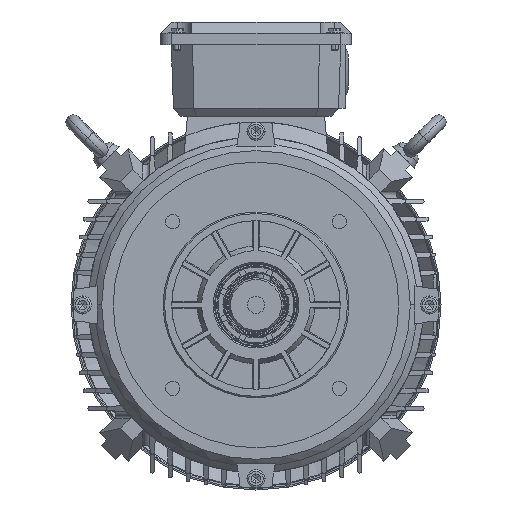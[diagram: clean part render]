
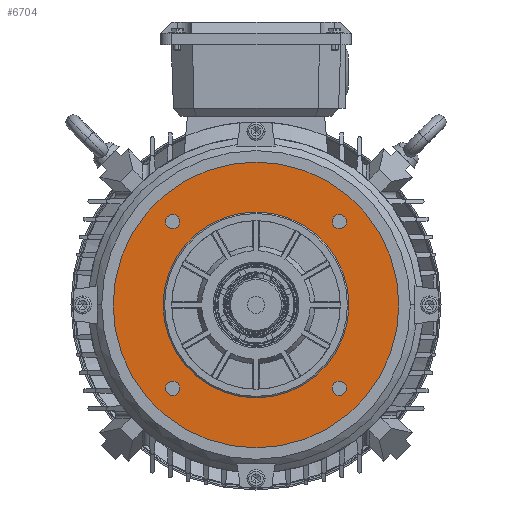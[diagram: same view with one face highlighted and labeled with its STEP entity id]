
A CAD part, left-side view. The second image highlights one B-rep face of the part: STEP entity #6704.
In plain terms, the highlighted planar face has unit normal (-1, 0, 0).
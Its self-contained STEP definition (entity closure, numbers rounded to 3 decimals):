
#147 = CARTESIAN_POINT ( 'NONE',  ( -137.49, 50.413, -60.325 ) ) ;
#236 = VERTEX_POINT ( 'NONE', #21797 ) ;
#1445 = EDGE_CURVE ( 'NONE', #17283, #132596, #109128, .T. ) ;
#2566 = CARTESIAN_POINT ( 'NONE',  ( -137.49, -67.924, -1.988 ) ) ;
#2885 = VERTEX_POINT ( 'NONE', #18143 ) ;
#4514 = CARTESIAN_POINT ( 'NONE',  ( -137.49, -2.924, -1.988 ) ) ;
#6704 = ADVANCED_FACE ( 'NONE', ( #40765, #44471, #126452, #88394, #28113, #89962 ), #137575, .F. ) ;
#8678 = CIRCLE ( 'NONE', #92239, 5. ) ;
#10390 = AXIS2_PLACEMENT_3D ( 'NONE', #132944, #133720, #71847 ) ;
#11230 = VERTEX_POINT ( 'NONE', #57525 ) ;
#14040 = CARTESIAN_POINT ( 'NONE',  ( -137.49, 55.413, 56.348 ) ) ;
#17283 = VERTEX_POINT ( 'NONE', #23902 ) ;
#18143 = CARTESIAN_POINT ( 'NONE',  ( -137.49, 60.413, 56.348 ) ) ;
#20159 = CARTESIAN_POINT ( 'NONE',  ( -137.49, -102.924, -1.988 ) ) ;
#20568 = DIRECTION ( 'NONE',  ( -1., 0., 0. ) ) ;
#21797 = CARTESIAN_POINT ( 'NONE',  ( -137.49, 62.076, -1.988 ) ) ;
#23902 = CARTESIAN_POINT ( 'NONE',  ( -137.49, -56.26, -60.325 ) ) ;
#24238 = AXIS2_PLACEMENT_3D ( 'NONE', #14040, #47351, #110024 ) ;
#28113 = FACE_BOUND ( 'NONE', #112809, .T. ) ;
#28899 = CARTESIAN_POINT ( 'NONE',  ( -137.49, -2.924, -101.988 ) ) ;
#29024 = ORIENTED_EDGE ( 'NONE', *, *, #1445, .F. ) ;
#30573 = DIRECTION ( 'NONE',  ( 0., 1., 0. ) ) ;
#31082 = DIRECTION ( 'NONE',  ( 0., 1., 0. ) ) ;
#31744 = ORIENTED_EDGE ( 'NONE', *, *, #96475, .F. ) ;
#32672 = DIRECTION ( 'NONE',  ( 0., 1., 0. ) ) ;
#34668 = DIRECTION ( 'NONE',  ( 0., 1., 0. ) ) ;
#35616 = AXIS2_PLACEMENT_3D ( 'NONE', #60702, #130550, #120219 ) ;
#40667 = CARTESIAN_POINT ( 'NONE',  ( -137.49, -61.26, 56.348 ) ) ;
#40765 = FACE_OUTER_BOUND ( 'NONE', #129961, .T. ) ;
#42439 = DIRECTION ( 'NONE',  ( -1., 0., 0. ) ) ;
#44471 = FACE_BOUND ( 'NONE', #65017, .T. ) ;
#45626 = DIRECTION ( 'NONE',  ( -1., 0., 0. ) ) ;
#45793 = VERTEX_POINT ( 'NONE', #151407 ) ;
#47196 = CARTESIAN_POINT ( 'NONE',  ( -137.49, -2.924, -1.988 ) ) ;
#47351 = DIRECTION ( 'NONE',  ( -1., 0., 0. ) ) ;
#47821 = EDGE_CURVE ( 'NONE', #2885, #87139, #67276, .T. ) ;
#49751 = CARTESIAN_POINT ( 'NONE',  ( -137.49, -66.26, -60.325 ) ) ;
#51791 = DIRECTION ( 'NONE',  ( -1., 0., 0. ) ) ;
#53263 = CARTESIAN_POINT ( 'NONE',  ( -137.49, -56.26, 56.348 ) ) ;
#54224 = ORIENTED_EDGE ( 'NONE', *, *, #125844, .F. ) ;
#57525 = CARTESIAN_POINT ( 'NONE',  ( -137.49, 97.076, -1.988 ) ) ;
#59568 = CIRCLE ( 'NONE', #69648, 100. ) ;
#59977 = EDGE_LOOP ( 'NONE', ( #68809, #107015 ) ) ;
#60702 = CARTESIAN_POINT ( 'NONE',  ( -137.49, -61.26, -60.325 ) ) ;
#64334 = VERTEX_POINT ( 'NONE', #144198 ) ;
#64847 = ORIENTED_EDGE ( 'NONE', *, *, #112127, .T. ) ;
#65017 = EDGE_LOOP ( 'NONE', ( #150684, #120318 ) ) ;
#67115 = CIRCLE ( 'NONE', #107639, 5. ) ;
#67276 = CIRCLE ( 'NONE', #24238, 5. ) ;
#67391 = CARTESIAN_POINT ( 'NONE',  ( -137.49, 55.413, -60.325 ) ) ;
#67733 = VERTEX_POINT ( 'NONE', #2566 ) ;
#68172 = DIRECTION ( 'NONE',  ( 0., 1., 0. ) ) ;
#68809 = ORIENTED_EDGE ( 'NONE', *, *, #47821, .F. ) ;
#68925 = AXIS2_PLACEMENT_3D ( 'NONE', #73514, #108432, #34668 ) ;
#69648 = AXIS2_PLACEMENT_3D ( 'NONE', #47196, #45626, #95614 ) ;
#70846 = AXIS2_PLACEMENT_3D ( 'NONE', #4514, #134058, #90135 ) ;
#70962 = EDGE_CURVE ( 'NONE', #139981, #64334, #73670, .T. ) ;
#71616 = DIRECTION ( 'NONE',  ( 0., 1., 0. ) ) ;
#71847 = DIRECTION ( 'NONE',  ( 0., 1., 0. ) ) ;
#73514 = CARTESIAN_POINT ( 'NONE',  ( -137.49, -2.924, -1.988 ) ) ;
#73670 = CIRCLE ( 'NONE', #10390, 5. ) ;
#73678 = VERTEX_POINT ( 'NONE', #20159 ) ;
#76225 = CARTESIAN_POINT ( 'NONE',  ( -137.49, 50.413, 56.348 ) ) ;
#77268 = DIRECTION ( 'NONE',  ( 1., 0., 0. ) ) ;
#79507 = DIRECTION ( 'NONE',  ( -1., 0., 0. ) ) ;
#81472 = CIRCLE ( 'NONE', #142296, 100. ) ;
#83422 = CIRCLE ( 'NONE', #70846, 65. ) ;
#87139 = VERTEX_POINT ( 'NONE', #76225 ) ;
#88394 = FACE_BOUND ( 'NONE', #152134, .T. ) ;
#89962 = FACE_BOUND ( 'NONE', #103029, .T. ) ;
#90135 = DIRECTION ( 'NONE',  ( 0., 1., 0. ) ) ;
#92239 = AXIS2_PLACEMENT_3D ( 'NONE', #100689, #156492, #71616 ) ;
#94839 = EDGE_CURVE ( 'NONE', #73678, #11230, #59568, .T. ) ;
#94854 = ORIENTED_EDGE ( 'NONE', *, *, #115891, .F. ) ;
#95614 = DIRECTION ( 'NONE',  ( 0., 1., 0. ) ) ;
#96475 = EDGE_CURVE ( 'NONE', #45793, #145852, #100728, .T. ) ;
#97232 = AXIS2_PLACEMENT_3D ( 'NONE', #67391, #20568, #68172 ) ;
#100689 = CARTESIAN_POINT ( 'NONE',  ( -137.49, -61.26, -60.325 ) ) ;
#100728 = CIRCLE ( 'NONE', #146385, 5. ) ;
#102307 = CIRCLE ( 'NONE', #97232, 5. ) ;
#102633 = CIRCLE ( 'NONE', #107600, 5. ) ;
#103029 = EDGE_LOOP ( 'NONE', ( #54224, #107579 ) ) ;
#104055 = DIRECTION ( 'NONE',  ( -1., 0., 0. ) ) ;
#106951 = CIRCLE ( 'NONE', #68925, 65. ) ;
#107015 = ORIENTED_EDGE ( 'NONE', *, *, #146805, .F. ) ;
#107579 = ORIENTED_EDGE ( 'NONE', *, *, #128600, .F. ) ;
#107600 = AXIS2_PLACEMENT_3D ( 'NONE', #40667, #51791, #114429 ) ;
#107639 = AXIS2_PLACEMENT_3D ( 'NONE', #141357, #79507, #32672 ) ;
#108432 = DIRECTION ( 'NONE',  ( -1., 0., 0. ) ) ;
#109128 = CIRCLE ( 'NONE', #35616, 5. ) ;
#110024 = DIRECTION ( 'NONE',  ( 0., 1., 0. ) ) ;
#112127 = EDGE_CURVE ( 'NONE', #11230, #73678, #81472, .T. ) ;
#112809 = EDGE_LOOP ( 'NONE', ( #29024, #124192 ) ) ;
#114429 = DIRECTION ( 'NONE',  ( 0., 1., 0. ) ) ;
#115891 = EDGE_CURVE ( 'NONE', #145852, #45793, #102307, .T. ) ;
#116545 = EDGE_CURVE ( 'NONE', #132596, #17283, #8678, .T. ) ;
#117507 = EDGE_CURVE ( 'NONE', #64334, #139981, #102633, .T. ) ;
#120219 = DIRECTION ( 'NONE',  ( 0., 1., 0. ) ) ;
#120318 = ORIENTED_EDGE ( 'NONE', *, *, #117507, .F. ) ;
#122831 = ORIENTED_EDGE ( 'NONE', *, *, #94839, .T. ) ;
#124192 = ORIENTED_EDGE ( 'NONE', *, *, #116545, .F. ) ;
#125678 = DIRECTION ( 'NONE',  ( 0., 0., -1. ) ) ;
#125844 = EDGE_CURVE ( 'NONE', #236, #67733, #83422, .T. ) ;
#126452 = FACE_BOUND ( 'NONE', #59977, .T. ) ;
#128600 = EDGE_CURVE ( 'NONE', #67733, #236, #106951, .T. ) ;
#129961 = EDGE_LOOP ( 'NONE', ( #64847, #122831 ) ) ;
#130550 = DIRECTION ( 'NONE',  ( -1., 0., 0. ) ) ;
#132596 = VERTEX_POINT ( 'NONE', #49751 ) ;
#132944 = CARTESIAN_POINT ( 'NONE',  ( -137.49, -61.26, 56.348 ) ) ;
#133720 = DIRECTION ( 'NONE',  ( -1., 0., 0. ) ) ;
#134058 = DIRECTION ( 'NONE',  ( -1., 0., 0. ) ) ;
#137575 = PLANE ( 'NONE',  #154179 ) ;
#139750 = CARTESIAN_POINT ( 'NONE',  ( -137.49, 55.413, -60.325 ) ) ;
#139981 = VERTEX_POINT ( 'NONE', #53263 ) ;
#140037 = CARTESIAN_POINT ( 'NONE',  ( -137.49, -2.924, -1.988 ) ) ;
#141357 = CARTESIAN_POINT ( 'NONE',  ( -137.49, 55.413, 56.348 ) ) ;
#142296 = AXIS2_PLACEMENT_3D ( 'NONE', #140037, #42439, #30573 ) ;
#144198 = CARTESIAN_POINT ( 'NONE',  ( -137.49, -66.26, 56.348 ) ) ;
#145852 = VERTEX_POINT ( 'NONE', #147 ) ;
#146385 = AXIS2_PLACEMENT_3D ( 'NONE', #139750, #104055, #31082 ) ;
#146805 = EDGE_CURVE ( 'NONE', #87139, #2885, #67115, .T. ) ;
#150684 = ORIENTED_EDGE ( 'NONE', *, *, #70962, .F. ) ;
#151407 = CARTESIAN_POINT ( 'NONE',  ( -137.49, 60.413, -60.325 ) ) ;
#152134 = EDGE_LOOP ( 'NONE', ( #31744, #94854 ) ) ;
#154179 = AXIS2_PLACEMENT_3D ( 'NONE', #28899, #77268, #125678 ) ;
#156492 = DIRECTION ( 'NONE',  ( -1., 0., 0. ) ) ;
